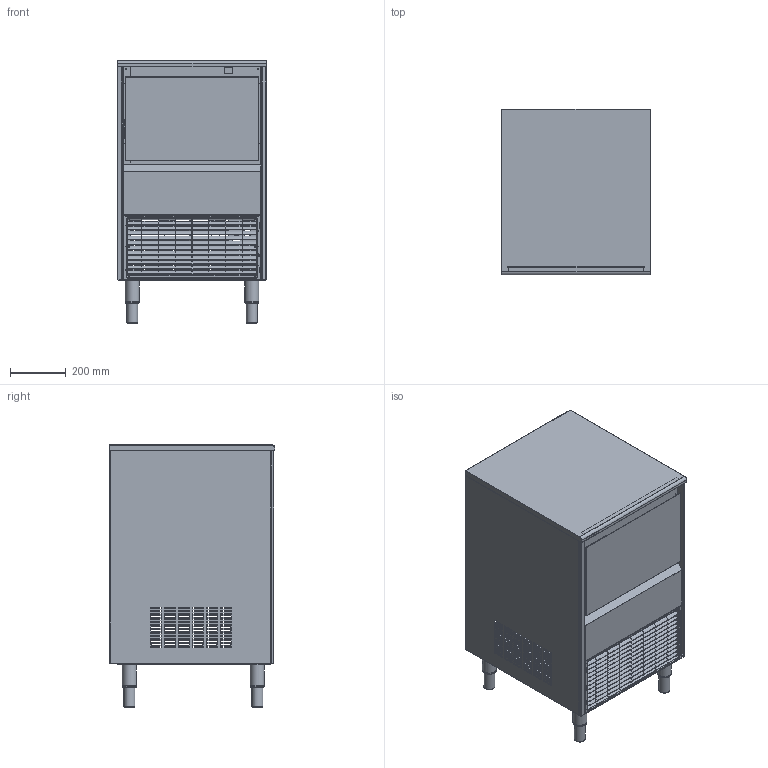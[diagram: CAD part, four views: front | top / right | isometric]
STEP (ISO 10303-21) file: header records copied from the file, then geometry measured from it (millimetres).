
FILE_DESCRIPTION(/* description */ ('Unknown'),/* implementation_level */ '2;1');
FILE_NAME(/* name */ 'NG-60',/* time_stamp */ '2018-04-19T11:33:48+02:00',/* author */ ('Unknown'),/* organization */ ('Unknown'),/* preprocessor_version */ 'ST-DEVELOPER v16.7',/* originating_system */ 'DEX',/* authorisation */ $);
FILE_SCHEMA (('CONFIG_CONTROL_DESIGN','TECHNICAL_DATA_PACKAGING','AP242_MANAGED_MODEL_BASED_3D_ENGINEERING_MIM_LF { 1 0 10303 442 1 1 4 }'));
Products named in the file (17): NDP-55; NDP-55+carroceria_oa_0; 32-1+4160; 32-3+160_R01; 32-10+490; 32-4+161; 32-5+207; 32-7+4169; 32-6+4168; 32-11+5791_oa_1; 32-12+4165; 32-9+4170; 35-73; 35-45; 32-10+489; 32-25+4172; 32-30
Assembly tree (19 placements, depth 4):
  NDP-55
    NDP-55+carroceria_oa_0
      32-1+4160
      32-3+160_R01
      32-10+490
      32-4+161
      32-5+207
      32-7+4169
      32-6+4168
      32-11+5791_oa_1
        32-12+4165
      32-9+4170
      35-73
      35-45
      32-10+489
      32-25+4172
    32-30  x4
Bounding box: 535 x 595.3 x 942.9 mm (x, y, z)
Volume: 3701567.8 mm3; surface area: 5854334.7 mm2
Topology: 17 solids, 17 shells, 3279 faces, 9653 edges, 6365 vertices
Faces by surface type: plane 1795, cylinder 1118, bspline 342, torus 16, sphere 4, cone 4
Full cylindrical faces by diameter (mm): 2.4 x18, 2.5 x1, 2.7 x24, 2.9 x6, 3.25 x3, 3.5 x20, 4.25 x63, 4.5 x2, 5 x26, 6 x13, 7 x14, 8 x10, 9 x2, 10 x4, 13 x1, 30 x1, 38 x4, 40 x4, 50 x4, 51 x4
Entity records: 120100 total; most frequent: CARTESIAN_POINT 34082, ORIENTED_EDGE 18502, DIRECTION 16217, EDGE_CURVE 9251, VERTEX_POINT 6205, LINE 5589, VECTOR 5589, AXIS2_PLACEMENT_3D 5314
